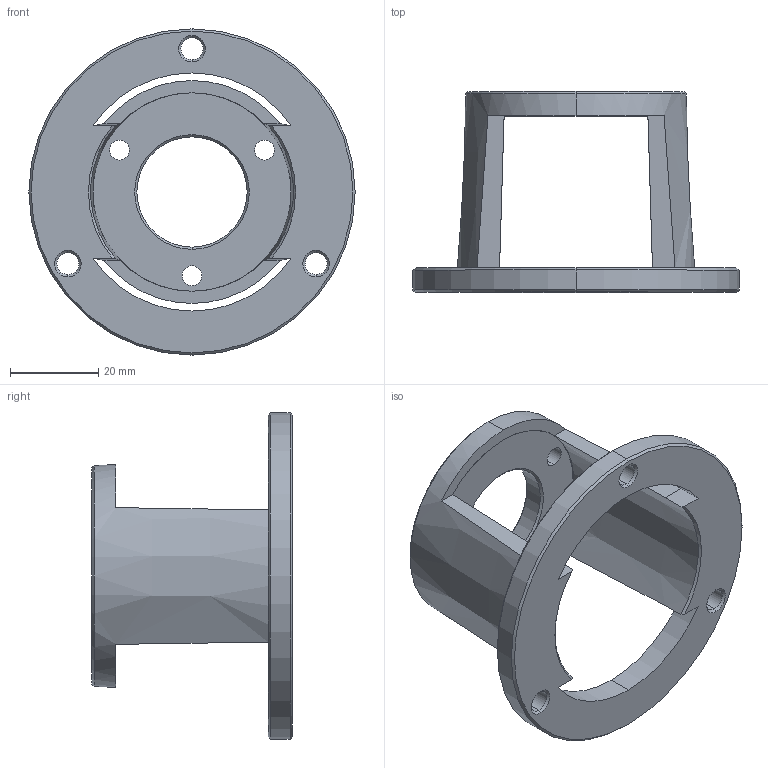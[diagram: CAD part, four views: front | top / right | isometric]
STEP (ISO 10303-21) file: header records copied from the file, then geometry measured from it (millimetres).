
FILE_DESCRIPTION (( 'STEP AP214' ), '1' );
FILE_NAME ('晤鎢ん揤翉璃25.STEP', '2022-11-21T08:14:01', ( '' ), ( '' ), 'SwSTEP 2.0', 'SolidWorks 2022', '' );
FILE_SCHEMA (( 'AUTOMOTIVE_DESIGN' ));
Length unit declared in the file: millimetre
Products named in the file (1): 晤鎢ん揤翉璃25
Bounding box: 74 x 45.5 x 74 mm (x, y, z)
Volume: 27556.7 mm3; surface area: 15877.9 mm2
Topology: 1 solids, 1 shells, 69 faces, 167 edges, 98 vertices
Faces by surface type: cone 34, cylinder 21, plane 14
Entity records: 2089 total; most frequent: CARTESIAN_POINT 383, DIRECTION 377, ORIENTED_EDGE 334, EDGE_CURVE 167, AXIS2_PLACEMENT_3D 156, VERTEX_POINT 98, CIRCLE 86, EDGE_LOOP 85
